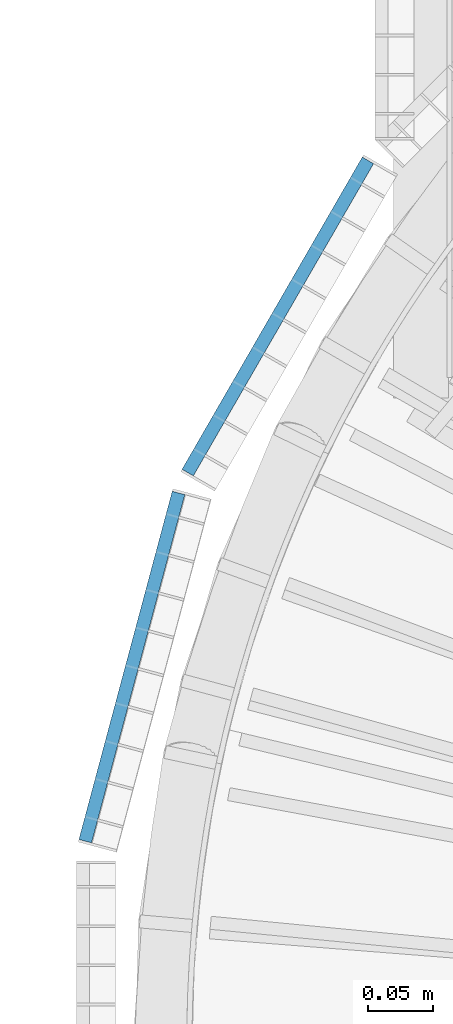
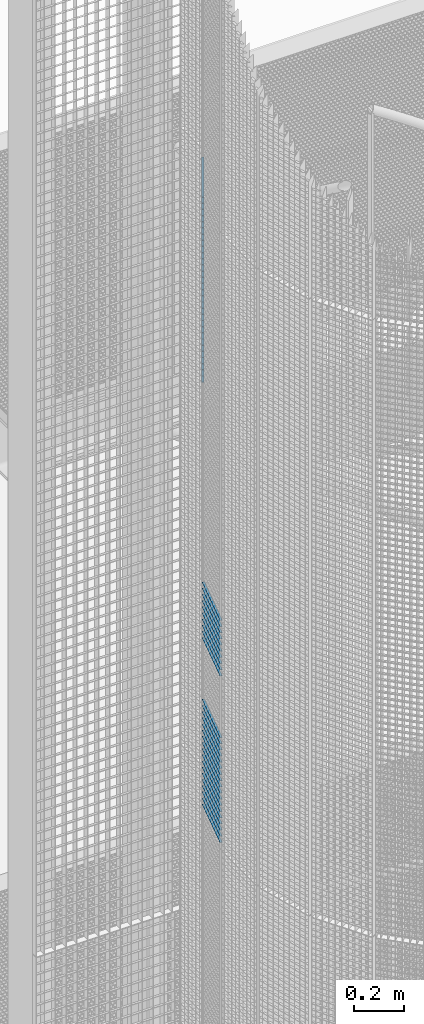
# One storey, part 191 of 1183: 59 beams, 2 elements without a shape of their own.
"""IFC2X3 building model written with IfcOpenShell, lengths in millimetres."""

from ifc_helpers import new_model, si_unit, frame, origin_with_axes, origin_2d_with_axis, place, context, subcontext, project, spatial, rectangle, extrude, material, type_object, element, aggregate, save


model = new_model("IFC2X3")

# Units and contexts
model_context = context("Model", 3, precision=1e-05, world=origin_with_axes())
body_context = subcontext(model_context, "Body", "Model", "MODEL_VIEW")
ifc_project = project(units=[si_unit("LENGTHUNIT", "METRE", prefix="MILLI"), si_unit("AREAUNIT", "SQUARE_METRE"), si_unit("VOLUMEUNIT", "CUBIC_METRE"), si_unit("MASSUNIT", "GRAM", prefix="KILO"), si_unit("TIMEUNIT", "SECOND"), si_unit("PLANEANGLEUNIT", "RADIAN"), si_unit("SOLIDANGLEUNIT", "STERADIAN"), si_unit("THERMODYNAMICTEMPERATUREUNIT", "DEGREE_CELSIUS"), si_unit("LUMINOUSINTENSITYUNIT", "LUMEN")], contexts=[model_context])

# Site, building, storey
site_placement = place(None, origin_with_axes())
site = spatial("IfcSite", under=ifc_project, at=site_placement, Name="Undefined", CompositionType="ELEMENT")
building_placement = place(site_placement, origin_with_axes())
building = spatial("IfcBuilding", under=site, at=building_placement, Name="Undefined", CompositionType="ELEMENT")
storey_placement = place(building_placement, origin_with_axes())
storey = spatial("IfcBuildingStorey", under=building, at=storey_placement, Name="Undefined", CompositionType="ELEMENT", Elevation=0.0)

# Assembly, beams
assembly_1_placement = place(storey_placement, origin_with_axes())
assembly_1 = element("IfcElementAssembly", 1, at=assembly_1_placement, inside=storey, Name="BORDURE", AssemblyPlace="NOTDEFINED", PredefinedType="NOTDEFINED")
ifc_material = material(Name="STEEL/S235JR")
beam_type = type_object("IfcBeamType", Name="PL2*10", PredefinedType="NOTDEFINED")
beam_1_placement = place(assembly_1_placement, frame((-1040.30888419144, 421.618038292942, 12540.0), z_axis=(-0.965925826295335, 0.258819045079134, 0.0), x_axis=(-0.258819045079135, -0.965925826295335, 0.0)))
beam_1 = element("IfcBeam", 2, at=beam_1_placement, type_object=beam_type, material=ifc_material, Name="ENTRETOISE", context=body_context, shape_type="SweptSolid", body=[
    extrude(rectangle(XDim=2.0, YDim=10.0, at=origin_2d_with_axis()), frame((275.999999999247, 9.09494701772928e-13, 1.53210777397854e-14), z_axis=(-1.0, 0.0, 0.0), x_axis=(0.0, -1.0, 0.0)), (0.0, 0.0, 1.0), 276.0),
])
beam_2_placement = place(assembly_1_placement, frame((-1040.30888419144, 421.618038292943, 12840.0), z_axis=(-0.965925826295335, 0.258819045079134, 0.0), x_axis=(-0.258819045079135, -0.965925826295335, 0.0)))
beam_2 = element("IfcBeam", 3, at=beam_2_placement, type_object=beam_type, material=ifc_material, Name="ENTRETOISE", context=body_context, shape_type="SweptSolid", body=[
    extrude(rectangle(XDim=2.0, YDim=10.0, at=origin_2d_with_axis()), frame((275.999999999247, 9.09494701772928e-13, 1.53210777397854e-14), z_axis=(-1.0, 0.0, 0.0), x_axis=(0.0, -1.0, 0.0)), (0.0, 0.0, 1.0), 276.0),
])
beam_3_placement = place(assembly_1_placement, frame((-1040.30888419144, 421.618038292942, 12510.0), z_axis=(-0.965925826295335, 0.258819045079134, 0.0), x_axis=(-0.258819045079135, -0.965925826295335, 0.0)))
beam_3 = element("IfcBeam", 4, at=beam_3_placement, type_object=beam_type, material=ifc_material, Name="ENTRETOISE", context=body_context, shape_type="SweptSolid", body=[
    extrude(rectangle(XDim=2.0, YDim=10.0, at=origin_2d_with_axis()), frame((275.999999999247, 9.09494701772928e-13, 1.53210777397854e-14), z_axis=(-1.0, 0.0, 0.0), x_axis=(0.0, -1.0, 0.0)), (0.0, 0.0, 1.0), 276.0),
])
beam_4_placement = place(assembly_1_placement, frame((-1040.30888419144, 421.618038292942, 12480.0), z_axis=(-0.965925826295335, 0.258819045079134, 0.0), x_axis=(-0.258819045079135, -0.965925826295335, 0.0)))
beam_4 = element("IfcBeam", 5, at=beam_4_placement, type_object=beam_type, material=ifc_material, Name="ENTRETOISE", context=body_context, shape_type="SweptSolid", body=[
    extrude(rectangle(XDim=2.0, YDim=10.0, at=origin_2d_with_axis()), frame((275.999999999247, 9.09494701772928e-13, 1.53210777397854e-14), z_axis=(-1.0, 0.0, 0.0), x_axis=(0.0, -1.0, 0.0)), (0.0, 0.0, 1.0), 276.0),
])
beam_5_placement = place(assembly_1_placement, frame((-1040.30888419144, 421.618038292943, 12870.0), z_axis=(-0.965925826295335, 0.258819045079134, 0.0), x_axis=(-0.258819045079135, -0.965925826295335, 0.0)))
beam_5 = element("IfcBeam", 6, at=beam_5_placement, type_object=beam_type, material=ifc_material, Name="ENTRETOISE", context=body_context, shape_type="SweptSolid", body=[
    extrude(rectangle(XDim=2.0, YDim=10.0, at=origin_2d_with_axis()), frame((275.999999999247, 9.09494701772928e-13, 1.53210777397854e-14), z_axis=(-1.0, 0.0, 0.0), x_axis=(0.0, -1.0, 0.0)), (0.0, 0.0, 1.0), 276.0),
])
beam_6_placement = place(assembly_1_placement, frame((-1040.30888419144, 421.618038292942, 12450.0), z_axis=(-0.965925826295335, 0.258819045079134, 0.0), x_axis=(-0.258819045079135, -0.965925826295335, 0.0)))
beam_6 = element("IfcBeam", 7, at=beam_6_placement, type_object=beam_type, material=ifc_material, Name="ENTRETOISE", context=body_context, shape_type="SweptSolid", body=[
    extrude(rectangle(XDim=2.0, YDim=10.0, at=origin_2d_with_axis()), frame((275.999999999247, 9.09494701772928e-13, 1.53210777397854e-14), z_axis=(-1.0, 0.0, 0.0), x_axis=(0.0, -1.0, 0.0)), (0.0, 0.0, 1.0), 276.0),
])
beam_7_placement = place(assembly_1_placement, frame((-1040.30888419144, 421.618038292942, 12420.0), z_axis=(-0.965925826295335, 0.258819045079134, 0.0), x_axis=(-0.258819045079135, -0.965925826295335, 0.0)))
beam_7 = element("IfcBeam", 8, at=beam_7_placement, type_object=beam_type, material=ifc_material, Name="ENTRETOISE", context=body_context, shape_type="SweptSolid", body=[
    extrude(rectangle(XDim=2.0, YDim=10.0, at=origin_2d_with_axis()), frame((275.999999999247, 9.09494701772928e-13, 1.53210777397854e-14), z_axis=(-1.0, 0.0, 0.0), x_axis=(0.0, -1.0, 0.0)), (0.0, 0.0, 1.0), 276.0),
])
beam_8_placement = place(assembly_1_placement, frame((-1040.30888419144, 421.618038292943, 12900.0), z_axis=(-0.965925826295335, 0.258819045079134, 0.0), x_axis=(-0.258819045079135, -0.965925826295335, 0.0)))
beam_8 = element("IfcBeam", 9, at=beam_8_placement, type_object=beam_type, material=ifc_material, Name="ENTRETOISE", context=body_context, shape_type="SweptSolid", body=[
    extrude(rectangle(XDim=2.0, YDim=10.0, at=origin_2d_with_axis()), frame((275.999999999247, 9.09494701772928e-13, 1.53210777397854e-14), z_axis=(-1.0, 0.0, 0.0), x_axis=(0.0, -1.0, 0.0)), (0.0, 0.0, 1.0), 276.0),
])
beam_9_placement = place(assembly_1_placement, frame((-1040.30888419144, 421.618038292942, 12390.0), z_axis=(-0.965925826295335, 0.258819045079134, 0.0), x_axis=(-0.258819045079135, -0.965925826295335, 0.0)))
beam_9 = element("IfcBeam", 10, at=beam_9_placement, type_object=beam_type, material=ifc_material, Name="ENTRETOISE", context=body_context, shape_type="SweptSolid", body=[
    extrude(rectangle(XDim=2.0, YDim=10.0, at=origin_2d_with_axis()), frame((275.999999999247, 9.09494701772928e-13, 1.53210777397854e-14), z_axis=(-1.0, 0.0, 0.0), x_axis=(0.0, -1.0, 0.0)), (0.0, 0.0, 1.0), 276.0),
])
beam_10_placement = place(assembly_1_placement, frame((-1040.30888419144, 421.618038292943, 12930.0), z_axis=(-0.965925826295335, 0.258819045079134, 0.0), x_axis=(-0.258819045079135, -0.965925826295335, 0.0)))
beam_10 = element("IfcBeam", 11, at=beam_10_placement, type_object=beam_type, material=ifc_material, Name="ENTRETOISE", context=body_context, shape_type="SweptSolid", body=[
    extrude(rectangle(XDim=2.0, YDim=10.0, at=origin_2d_with_axis()), frame((275.999999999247, 9.09494701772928e-13, 1.53210777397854e-14), z_axis=(-1.0, 0.0, 0.0), x_axis=(0.0, -1.0, 0.0)), (0.0, 0.0, 1.0), 276.0),
])
beam_11_placement = place(assembly_1_placement, frame((-1040.30888419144, 421.618038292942, 12360.0), z_axis=(-0.965925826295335, 0.258819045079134, 0.0), x_axis=(-0.258819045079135, -0.965925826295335, 0.0)))
beam_11 = element("IfcBeam", 12, at=beam_11_placement, type_object=beam_type, material=ifc_material, Name="ENTRETOISE", context=body_context, shape_type="SweptSolid", body=[
    extrude(rectangle(XDim=2.0, YDim=10.0, at=origin_2d_with_axis()), frame((275.999999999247, 9.09494701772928e-13, 1.53210777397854e-14), z_axis=(-1.0, 0.0, 0.0), x_axis=(0.0, -1.0, 0.0)), (0.0, 0.0, 1.0), 276.0),
])
beam_12_placement = place(assembly_1_placement, frame((-1040.30888419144, 421.618038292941, 12330.0), z_axis=(-0.965925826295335, 0.258819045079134, 0.0), x_axis=(-0.258819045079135, -0.965925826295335, 0.0)))
beam_12 = element("IfcBeam", 13, at=beam_12_placement, type_object=beam_type, material=ifc_material, Name="ENTRETOISE", context=body_context, shape_type="SweptSolid", body=[
    extrude(rectangle(XDim=2.0, YDim=10.0, at=origin_2d_with_axis()), frame((275.999999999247, 9.09494701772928e-13, 1.53210777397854e-14), z_axis=(-1.0, 0.0, 0.0), x_axis=(0.0, -1.0, 0.0)), (0.0, 0.0, 1.0), 276.0),
])
beam_13_placement = place(assembly_1_placement, frame((-1040.30888419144, 421.618038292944, 12960.0), z_axis=(-0.965925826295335, 0.258819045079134, 0.0), x_axis=(-0.258819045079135, -0.965925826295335, 0.0)))
beam_13 = element("IfcBeam", 14, at=beam_13_placement, type_object=beam_type, material=ifc_material, Name="ENTRETOISE", context=body_context, shape_type="SweptSolid", body=[
    extrude(rectangle(XDim=2.0, YDim=10.0, at=origin_2d_with_axis()), frame((275.999999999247, 9.09494701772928e-13, 1.53210777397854e-14), z_axis=(-1.0, 0.0, 0.0), x_axis=(0.0, -1.0, 0.0)), (0.0, 0.0, 1.0), 276.0),
])
beam_14_placement = place(assembly_1_placement, frame((-1040.30888419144, 421.618038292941, 12300.0), z_axis=(-0.965925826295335, 0.258819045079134, 0.0), x_axis=(-0.258819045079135, -0.965925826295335, 0.0)))
beam_14 = element("IfcBeam", 15, at=beam_14_placement, type_object=beam_type, material=ifc_material, Name="ENTRETOISE", context=body_context, shape_type="SweptSolid", body=[
    extrude(rectangle(XDim=2.0, YDim=10.0, at=origin_2d_with_axis()), frame((275.999999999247, 9.09494701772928e-13, 1.53210777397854e-14), z_axis=(-1.0, 0.0, 0.0), x_axis=(0.0, -1.0, 0.0)), (0.0, 0.0, 1.0), 276.0),
])
beam_15_placement = place(assembly_1_placement, frame((-1040.30888419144, 421.618038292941, 12270.0), z_axis=(-0.965925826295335, 0.258819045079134, 0.0), x_axis=(-0.258819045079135, -0.965925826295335, 0.0)))
beam_15 = element("IfcBeam", 16, at=beam_15_placement, type_object=beam_type, material=ifc_material, Name="ENTRETOISE", context=body_context, shape_type="SweptSolid", body=[
    extrude(rectangle(XDim=2.0, YDim=10.0, at=origin_2d_with_axis()), frame((275.999999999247, 9.09494701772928e-13, 1.53210777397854e-14), z_axis=(-1.0, 0.0, 0.0), x_axis=(0.0, -1.0, 0.0)), (0.0, 0.0, 1.0), 276.0),
])
beam_16_placement = place(assembly_1_placement, frame((-1040.30888419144, 421.618038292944, 12990.0), z_axis=(-0.965925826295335, 0.258819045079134, 0.0), x_axis=(-0.258819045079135, -0.965925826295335, 0.0)))
beam_16 = element("IfcBeam", 17, at=beam_16_placement, type_object=beam_type, material=ifc_material, Name="ENTRETOISE", context=body_context, shape_type="SweptSolid", body=[
    extrude(rectangle(XDim=2.0, YDim=10.0, at=origin_2d_with_axis()), frame((275.999999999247, 9.09494701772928e-13, 1.53210777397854e-14), z_axis=(-1.0, 0.0, 0.0), x_axis=(0.0, -1.0, 0.0)), (0.0, 0.0, 1.0), 276.0),
])
beam_17_placement = place(assembly_1_placement, frame((-1040.30888419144, 421.618038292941, 12240.0), z_axis=(-0.965925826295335, 0.258819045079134, 0.0), x_axis=(-0.258819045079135, -0.965925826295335, 0.0)))
beam_17 = element("IfcBeam", 18, at=beam_17_placement, type_object=beam_type, material=ifc_material, Name="ENTRETOISE", context=body_context, shape_type="SweptSolid", body=[
    extrude(rectangle(XDim=2.0, YDim=10.0, at=origin_2d_with_axis()), frame((275.999999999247, 9.09494701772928e-13, 1.53210777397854e-14), z_axis=(-1.0, 0.0, 0.0), x_axis=(0.0, -1.0, 0.0)), (0.0, 0.0, 1.0), 276.0),
])
beam_18_placement = place(assembly_1_placement, frame((-1040.30888419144, 421.618038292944, 13020.0), z_axis=(-0.965925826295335, 0.258819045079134, 0.0), x_axis=(-0.258819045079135, -0.965925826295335, 0.0)))
beam_18 = element("IfcBeam", 19, at=beam_18_placement, type_object=beam_type, material=ifc_material, Name="ENTRETOISE", context=body_context, shape_type="SweptSolid", body=[
    extrude(rectangle(XDim=2.0, YDim=10.0, at=origin_2d_with_axis()), frame((275.999999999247, 9.09494701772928e-13, 1.53210777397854e-14), z_axis=(-1.0, 0.0, 0.0), x_axis=(0.0, -1.0, 0.0)), (0.0, 0.0, 1.0), 276.0),
])
beam_19_placement = place(assembly_1_placement, frame((-1040.30888419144, 421.618038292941, 12210.0), z_axis=(-0.965925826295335, 0.258819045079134, 0.0), x_axis=(-0.258819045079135, -0.965925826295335, 0.0)))
beam_19 = element("IfcBeam", 20, at=beam_19_placement, type_object=beam_type, material=ifc_material, Name="ENTRETOISE", context=body_context, shape_type="SweptSolid", body=[
    extrude(rectangle(XDim=2.0, YDim=10.0, at=origin_2d_with_axis()), frame((275.999999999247, 9.09494701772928e-13, 1.53210777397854e-14), z_axis=(-1.0, 0.0, 0.0), x_axis=(0.0, -1.0, 0.0)), (0.0, 0.0, 1.0), 276.0),
])
beam_20_placement = place(assembly_1_placement, frame((-1040.30888419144, 421.618038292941, 12180.0), z_axis=(-0.965925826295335, 0.258819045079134, 0.0), x_axis=(-0.258819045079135, -0.965925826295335, 0.0)))
beam_20 = element("IfcBeam", 21, at=beam_20_placement, type_object=beam_type, material=ifc_material, Name="ENTRETOISE", context=body_context, shape_type="SweptSolid", body=[
    extrude(rectangle(XDim=2.0, YDim=10.0, at=origin_2d_with_axis()), frame((275.999999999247, 9.09494701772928e-13, 1.53210777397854e-14), z_axis=(-1.0, 0.0, 0.0), x_axis=(0.0, -1.0, 0.0)), (0.0, 0.0, 1.0), 276.0),
])
beam_21_placement = place(assembly_1_placement, frame((-1040.30888419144, 421.618038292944, 13050.0), z_axis=(-0.965925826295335, 0.258819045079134, 0.0), x_axis=(-0.258819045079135, -0.965925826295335, 0.0)))
beam_21 = element("IfcBeam", 22, at=beam_21_placement, type_object=beam_type, material=ifc_material, Name="ENTRETOISE", context=body_context, shape_type="SweptSolid", body=[
    extrude(rectangle(XDim=2.0, YDim=10.0, at=origin_2d_with_axis()), frame((275.999999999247, 9.09494701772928e-13, 1.53210777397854e-14), z_axis=(-1.0, 0.0, 0.0), x_axis=(0.0, -1.0, 0.0)), (0.0, 0.0, 1.0), 276.0),
])
beam_22_placement = place(assembly_1_placement, frame((-1040.30888419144, 421.618038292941, 12150.0), z_axis=(-0.965925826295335, 0.258819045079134, 0.0), x_axis=(-0.258819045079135, -0.965925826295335, 0.0)))
beam_22 = element("IfcBeam", 23, at=beam_22_placement, type_object=beam_type, material=ifc_material, Name="ENTRETOISE", context=body_context, shape_type="SweptSolid", body=[
    extrude(rectangle(XDim=2.0, YDim=10.0, at=origin_2d_with_axis()), frame((275.999999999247, 9.09494701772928e-13, 1.53210777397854e-14), z_axis=(-1.0, 0.0, 0.0), x_axis=(0.0, -1.0, 0.0)), (0.0, 0.0, 1.0), 276.0),
])
beam_23_placement = place(assembly_1_placement, frame((-1040.30888419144, 421.618038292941, 12120.0), z_axis=(-0.965925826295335, 0.258819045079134, 0.0), x_axis=(-0.258819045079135, -0.965925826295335, 0.0)))
beam_23 = element("IfcBeam", 24, at=beam_23_placement, type_object=beam_type, material=ifc_material, Name="ENTRETOISE", context=body_context, shape_type="SweptSolid", body=[
    extrude(rectangle(XDim=2.0, YDim=10.0, at=origin_2d_with_axis()), frame((275.999999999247, 9.09494701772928e-13, 1.53210777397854e-14), z_axis=(-1.0, 0.0, 0.0), x_axis=(0.0, -1.0, 0.0)), (0.0, 0.0, 1.0), 276.0),
])
beam_24_placement = place(assembly_1_placement, frame((-1040.30888419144, 421.618038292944, 13080.0), z_axis=(-0.965925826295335, 0.258819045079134, 0.0), x_axis=(-0.258819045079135, -0.965925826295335, 0.0)))
beam_24 = element("IfcBeam", 25, at=beam_24_placement, type_object=beam_type, material=ifc_material, Name="ENTRETOISE", context=body_context, shape_type="SweptSolid", body=[
    extrude(rectangle(XDim=2.0, YDim=10.0, at=origin_2d_with_axis()), frame((275.999999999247, 9.09494701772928e-13, 1.53210777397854e-14), z_axis=(-1.0, 0.0, 0.0), x_axis=(0.0, -1.0, 0.0)), (0.0, 0.0, 1.0), 276.0),
])
beam_25_placement = place(assembly_1_placement, frame((-1040.30888419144, 421.618038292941, 12090.0), z_axis=(-0.965925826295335, 0.258819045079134, 0.0), x_axis=(-0.258819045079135, -0.965925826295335, 0.0)))
beam_25 = element("IfcBeam", 26, at=beam_25_placement, type_object=beam_type, material=ifc_material, Name="ENTRETOISE", context=body_context, shape_type="SweptSolid", body=[
    extrude(rectangle(XDim=2.0, YDim=10.0, at=origin_2d_with_axis()), frame((275.999999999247, 9.09494701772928e-13, 1.53210777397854e-14), z_axis=(-1.0, 0.0, 0.0), x_axis=(0.0, -1.0, 0.0)), (0.0, 0.0, 1.0), 276.0),
])
beam_26_placement = place(assembly_1_placement, frame((-1040.30888419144, 421.618038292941, 12060.0), z_axis=(-0.965925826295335, 0.258819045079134, 0.0), x_axis=(-0.258819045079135, -0.965925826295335, 0.0)))
beam_26 = element("IfcBeam", 27, at=beam_26_placement, type_object=beam_type, material=ifc_material, Name="ENTRETOISE", context=body_context, shape_type="SweptSolid", body=[
    extrude(rectangle(XDim=2.0, YDim=10.0, at=origin_2d_with_axis()), frame((275.999999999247, 9.09494701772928e-13, 1.53210777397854e-14), z_axis=(-1.0, 0.0, 0.0), x_axis=(0.0, -1.0, 0.0)), (0.0, 0.0, 1.0), 276.0),
])
beam_27_placement = place(assembly_1_placement, frame((-1040.30888419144, 421.618038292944, 13110.0), z_axis=(-0.965925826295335, 0.258819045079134, 0.0), x_axis=(-0.258819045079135, -0.965925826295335, 0.0)))
beam_27 = element("IfcBeam", 28, at=beam_27_placement, type_object=beam_type, material=ifc_material, Name="ENTRETOISE", context=body_context, shape_type="SweptSolid", body=[
    extrude(rectangle(XDim=2.0, YDim=10.0, at=origin_2d_with_axis()), frame((275.999999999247, 9.09494701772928e-13, 1.53210777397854e-14), z_axis=(-1.0, 0.0, 0.0), x_axis=(0.0, -1.0, 0.0)), (0.0, 0.0, 1.0), 276.0),
])
beam_28_placement = place(assembly_1_placement, frame((-1040.30888419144, 421.618038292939, 12030.0), z_axis=(-0.965925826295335, 0.258819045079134, 0.0), x_axis=(-0.258819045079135, -0.965925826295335, 0.0)))
beam_28 = element("IfcBeam", 29, at=beam_28_placement, type_object=beam_type, material=ifc_material, Name="ENTRETOISE", context=body_context, shape_type="SweptSolid", body=[
    extrude(rectangle(XDim=2.0, YDim=10.0, at=origin_2d_with_axis()), frame((275.999999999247, 9.09494701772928e-13, 1.53210777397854e-14), z_axis=(-1.0, 0.0, 0.0), x_axis=(0.0, -1.0, 0.0)), (0.0, 0.0, 1.0), 276.0),
])
aggregate(assembly_1, [beam_1, beam_2, beam_3, beam_4, beam_5, beam_6, beam_7, beam_8, beam_9, beam_10, beam_11, beam_12, beam_13, beam_14, beam_15, beam_16, beam_17, beam_18, beam_19, beam_20, beam_21, beam_22, beam_23, beam_24, beam_25, beam_26, beam_27, beam_28])

assembly_2_placement = place(storey_placement, origin_with_axes())
assembly_2 = element("IfcElementAssembly", 30, at=assembly_2_placement, inside=storey, Name="BORDURE", AssemblyPlace="NOTDEFINED", PredefinedType="NOTDEFINED")
beam_29_placement = place(assembly_2_placement, frame((-895.303964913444, 676.248044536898, 14970.0), z_axis=(-0.866025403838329, 0.499999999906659, 0.0), x_axis=(-0.49999999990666, -0.866025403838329, 0.0)))
beam_29 = element("IfcBeam", 31, at=beam_29_placement, type_object=beam_type, material=ifc_material, Name="ENTRETOISE", context=body_context, shape_type="SweptSolid", body=[
    extrude(rectangle(XDim=2.0, YDim=10.0, at=origin_2d_with_axis()), frame((275.999999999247, 9.09494701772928e-13, 1.53210777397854e-14), z_axis=(-1.0, 0.0, 0.0), x_axis=(0.0, -1.0, 0.0)), (0.0, 0.0, 1.0), 276.0),
])
beam_30_placement = place(assembly_2_placement, frame((-895.303964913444, 676.248044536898, 14940.0), z_axis=(-0.866025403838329, 0.499999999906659, 0.0), x_axis=(-0.49999999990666, -0.866025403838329, 0.0)))
beam_30 = element("IfcBeam", 32, at=beam_30_placement, type_object=beam_type, material=ifc_material, Name="ENTRETOISE", context=body_context, shape_type="SweptSolid", body=[
    extrude(rectangle(XDim=2.0, YDim=10.0, at=origin_2d_with_axis()), frame((275.999999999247, 9.09494701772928e-13, 1.53210777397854e-14), z_axis=(-1.0, 0.0, 0.0), x_axis=(0.0, -1.0, 0.0)), (0.0, 0.0, 1.0), 276.0),
])
beam_31_placement = place(assembly_2_placement, frame((-895.303964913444, 676.248044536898, 14910.0), z_axis=(-0.866025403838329, 0.499999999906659, 0.0), x_axis=(-0.49999999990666, -0.866025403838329, 0.0)))
beam_31 = element("IfcBeam", 33, at=beam_31_placement, type_object=beam_type, material=ifc_material, Name="ENTRETOISE", context=body_context, shape_type="SweptSolid", body=[
    extrude(rectangle(XDim=2.0, YDim=10.0, at=origin_2d_with_axis()), frame((275.999999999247, 9.09494701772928e-13, 1.53210777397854e-14), z_axis=(-1.0, 0.0, 0.0), x_axis=(0.0, -1.0, 0.0)), (0.0, 0.0, 1.0), 276.0),
])
beam_32_placement = place(assembly_2_placement, frame((-895.303964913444, 676.248044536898, 14880.0), z_axis=(-0.866025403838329, 0.499999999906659, 0.0), x_axis=(-0.49999999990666, -0.866025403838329, 0.0)))
beam_32 = element("IfcBeam", 34, at=beam_32_placement, type_object=beam_type, material=ifc_material, Name="ENTRETOISE", context=body_context, shape_type="SweptSolid", body=[
    extrude(rectangle(XDim=2.0, YDim=10.0, at=origin_2d_with_axis()), frame((275.999999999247, 9.09494701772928e-13, 1.53210777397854e-14), z_axis=(-1.0, 0.0, 0.0), x_axis=(0.0, -1.0, 0.0)), (0.0, 0.0, 1.0), 276.0),
])
beam_33_placement = place(assembly_2_placement, frame((-895.303964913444, 676.248044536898, 14850.0), z_axis=(-0.866025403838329, 0.499999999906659, 0.0), x_axis=(-0.49999999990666, -0.866025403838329, 0.0)))
beam_33 = element("IfcBeam", 35, at=beam_33_placement, type_object=beam_type, material=ifc_material, Name="ENTRETOISE", context=body_context, shape_type="SweptSolid", body=[
    extrude(rectangle(XDim=2.0, YDim=10.0, at=origin_2d_with_axis()), frame((275.999999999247, 9.09494701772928e-13, 1.53210777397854e-14), z_axis=(-1.0, 0.0, 0.0), x_axis=(0.0, -1.0, 0.0)), (0.0, 0.0, 1.0), 276.0),
])
beam_34_placement = place(assembly_2_placement, frame((-895.303964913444, 676.248044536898, 14820.0), z_axis=(-0.866025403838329, 0.499999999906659, 0.0), x_axis=(-0.49999999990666, -0.866025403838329, 0.0)))
beam_34 = element("IfcBeam", 36, at=beam_34_placement, type_object=beam_type, material=ifc_material, Name="ENTRETOISE", context=body_context, shape_type="SweptSolid", body=[
    extrude(rectangle(XDim=2.0, YDim=10.0, at=origin_2d_with_axis()), frame((275.999999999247, 9.09494701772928e-13, 1.53210777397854e-14), z_axis=(-1.0, 0.0, 0.0), x_axis=(0.0, -1.0, 0.0)), (0.0, 0.0, 1.0), 276.0),
])
beam_35_placement = place(assembly_2_placement, frame((-895.303964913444, 676.248044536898, 14790.0), z_axis=(-0.866025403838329, 0.499999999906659, 0.0), x_axis=(-0.49999999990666, -0.866025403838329, 0.0)))
beam_35 = element("IfcBeam", 37, at=beam_35_placement, type_object=beam_type, material=ifc_material, Name="ENTRETOISE", context=body_context, shape_type="SweptSolid", body=[
    extrude(rectangle(XDim=2.0, YDim=10.0, at=origin_2d_with_axis()), frame((275.999999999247, 9.09494701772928e-13, 1.53210777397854e-14), z_axis=(-1.0, 0.0, 0.0), x_axis=(0.0, -1.0, 0.0)), (0.0, 0.0, 1.0), 276.0),
])
beam_36_placement = place(assembly_2_placement, frame((-895.303964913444, 676.248044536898, 14760.0), z_axis=(-0.866025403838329, 0.499999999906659, 0.0), x_axis=(-0.49999999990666, -0.866025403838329, 0.0)))
beam_36 = element("IfcBeam", 38, at=beam_36_placement, type_object=beam_type, material=ifc_material, Name="ENTRETOISE", context=body_context, shape_type="SweptSolid", body=[
    extrude(rectangle(XDim=2.0, YDim=10.0, at=origin_2d_with_axis()), frame((275.999999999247, 9.09494701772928e-13, 1.53210777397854e-14), z_axis=(-1.0, 0.0, 0.0), x_axis=(0.0, -1.0, 0.0)), (0.0, 0.0, 1.0), 276.0),
])
beam_37_placement = place(assembly_2_placement, frame((-895.303964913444, 676.248044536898, 14730.0), z_axis=(-0.866025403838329, 0.499999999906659, 0.0), x_axis=(-0.49999999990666, -0.866025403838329, 0.0)))
beam_37 = element("IfcBeam", 39, at=beam_37_placement, type_object=beam_type, material=ifc_material, Name="ENTRETOISE", context=body_context, shape_type="SweptSolid", body=[
    extrude(rectangle(XDim=2.0, YDim=10.0, at=origin_2d_with_axis()), frame((275.999999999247, 9.09494701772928e-13, 1.53210777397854e-14), z_axis=(-1.0, 0.0, 0.0), x_axis=(0.0, -1.0, 0.0)), (0.0, 0.0, 1.0), 276.0),
])
beam_38_placement = place(assembly_2_placement, frame((-895.303964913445, 676.248044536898, 14700.0), z_axis=(-0.866025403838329, 0.499999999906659, 0.0), x_axis=(-0.49999999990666, -0.866025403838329, 0.0)))
beam_38 = element("IfcBeam", 40, at=beam_38_placement, type_object=beam_type, material=ifc_material, Name="ENTRETOISE", context=body_context, shape_type="SweptSolid", body=[
    extrude(rectangle(XDim=2.0, YDim=10.0, at=origin_2d_with_axis()), frame((275.999999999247, 9.09494701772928e-13, 1.53210777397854e-14), z_axis=(-1.0, 0.0, 0.0), x_axis=(0.0, -1.0, 0.0)), (0.0, 0.0, 1.0), 276.0),
])
beam_39_placement = place(assembly_2_placement, frame((-895.303964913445, 676.248044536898, 14670.0), z_axis=(-0.866025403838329, 0.499999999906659, 0.0), x_axis=(-0.49999999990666, -0.866025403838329, 0.0)))
beam_39 = element("IfcBeam", 41, at=beam_39_placement, type_object=beam_type, material=ifc_material, Name="ENTRETOISE", context=body_context, shape_type="SweptSolid", body=[
    extrude(rectangle(XDim=2.0, YDim=10.0, at=origin_2d_with_axis()), frame((275.999999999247, 9.09494701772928e-13, 1.53210777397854e-14), z_axis=(-1.0, 0.0, 0.0), x_axis=(0.0, -1.0, 0.0)), (0.0, 0.0, 1.0), 276.0),
])
beam_40_placement = place(assembly_2_placement, frame((-895.303964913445, 676.248044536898, 14640.0), z_axis=(-0.866025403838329, 0.499999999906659, 0.0), x_axis=(-0.49999999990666, -0.866025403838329, 0.0)))
beam_40 = element("IfcBeam", 42, at=beam_40_placement, type_object=beam_type, material=ifc_material, Name="ENTRETOISE", context=body_context, shape_type="SweptSolid", body=[
    extrude(rectangle(XDim=2.0, YDim=10.0, at=origin_2d_with_axis()), frame((275.999999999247, 9.09494701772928e-13, 1.53210777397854e-14), z_axis=(-1.0, 0.0, 0.0), x_axis=(0.0, -1.0, 0.0)), (0.0, 0.0, 1.0), 276.0),
])
beam_41_placement = place(assembly_2_placement, frame((-895.303964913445, 676.248044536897, 14610.0), z_axis=(-0.866025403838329, 0.499999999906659, 0.0), x_axis=(-0.49999999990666, -0.866025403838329, 0.0)))
beam_41 = element("IfcBeam", 43, at=beam_41_placement, type_object=beam_type, material=ifc_material, Name="ENTRETOISE", context=body_context, shape_type="SweptSolid", body=[
    extrude(rectangle(XDim=2.0, YDim=10.0, at=origin_2d_with_axis()), frame((275.999999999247, 9.09494701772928e-13, 1.53210777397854e-14), z_axis=(-1.0, 0.0, 0.0), x_axis=(0.0, -1.0, 0.0)), (0.0, 0.0, 1.0), 276.0),
])
beam_42_placement = place(assembly_2_placement, frame((-895.303964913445, 676.248044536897, 14580.0), z_axis=(-0.866025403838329, 0.499999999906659, 0.0), x_axis=(-0.49999999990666, -0.866025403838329, 0.0)))
beam_42 = element("IfcBeam", 44, at=beam_42_placement, type_object=beam_type, material=ifc_material, Name="ENTRETOISE", context=body_context, shape_type="SweptSolid", body=[
    extrude(rectangle(XDim=2.0, YDim=10.0, at=origin_2d_with_axis()), frame((275.999999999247, 9.09494701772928e-13, 1.53210777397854e-14), z_axis=(-1.0, 0.0, 0.0), x_axis=(0.0, -1.0, 0.0)), (0.0, 0.0, 1.0), 276.0),
])
beam_43_placement = place(assembly_2_placement, frame((-895.303964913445, 676.248044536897, 14550.0), z_axis=(-0.866025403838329, 0.499999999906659, 0.0), x_axis=(-0.49999999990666, -0.866025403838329, 0.0)))
beam_43 = element("IfcBeam", 45, at=beam_43_placement, type_object=beam_type, material=ifc_material, Name="ENTRETOISE", context=body_context, shape_type="SweptSolid", body=[
    extrude(rectangle(XDim=2.0, YDim=10.0, at=origin_2d_with_axis()), frame((275.999999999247, 9.09494701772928e-13, 1.53210777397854e-14), z_axis=(-1.0, 0.0, 0.0), x_axis=(0.0, -1.0, 0.0)), (0.0, 0.0, 1.0), 276.0),
])
beam_44_placement = place(assembly_2_placement, frame((-895.303964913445, 676.248044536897, 14520.0), z_axis=(-0.866025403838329, 0.499999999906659, 0.0), x_axis=(-0.49999999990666, -0.866025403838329, 0.0)))
beam_44 = element("IfcBeam", 46, at=beam_44_placement, type_object=beam_type, material=ifc_material, Name="ENTRETOISE", context=body_context, shape_type="SweptSolid", body=[
    extrude(rectangle(XDim=2.0, YDim=10.0, at=origin_2d_with_axis()), frame((275.999999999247, 9.09494701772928e-13, 1.53210777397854e-14), z_axis=(-1.0, 0.0, 0.0), x_axis=(0.0, -1.0, 0.0)), (0.0, 0.0, 1.0), 276.0),
])
beam_45_placement = place(assembly_2_placement, frame((-895.303964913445, 676.248044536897, 14490.0), z_axis=(-0.866025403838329, 0.499999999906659, 0.0), x_axis=(-0.49999999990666, -0.866025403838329, 0.0)))
beam_45 = element("IfcBeam", 47, at=beam_45_placement, type_object=beam_type, material=ifc_material, Name="ENTRETOISE", context=body_context, shape_type="SweptSolid", body=[
    extrude(rectangle(XDim=2.0, YDim=10.0, at=origin_2d_with_axis()), frame((275.999999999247, 9.09494701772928e-13, 1.53210777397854e-14), z_axis=(-1.0, 0.0, 0.0), x_axis=(0.0, -1.0, 0.0)), (0.0, 0.0, 1.0), 276.0),
])
beam_46_placement = place(assembly_2_placement, frame((-895.303964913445, 676.248044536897, 14460.0), z_axis=(-0.866025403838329, 0.499999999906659, 0.0), x_axis=(-0.49999999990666, -0.866025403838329, 0.0)))
beam_46 = element("IfcBeam", 48, at=beam_46_placement, type_object=beam_type, material=ifc_material, Name="ENTRETOISE", context=body_context, shape_type="SweptSolid", body=[
    extrude(rectangle(XDim=2.0, YDim=10.0, at=origin_2d_with_axis()), frame((275.999999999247, 9.09494701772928e-13, 1.53210777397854e-14), z_axis=(-1.0, 0.0, 0.0), x_axis=(0.0, -1.0, 0.0)), (0.0, 0.0, 1.0), 276.0),
])
beam_47_placement = place(assembly_2_placement, frame((-895.303964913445, 676.248044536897, 14430.0), z_axis=(-0.866025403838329, 0.499999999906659, 0.0), x_axis=(-0.49999999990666, -0.866025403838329, 0.0)))
beam_47 = element("IfcBeam", 49, at=beam_47_placement, type_object=beam_type, material=ifc_material, Name="ENTRETOISE", context=body_context, shape_type="SweptSolid", body=[
    extrude(rectangle(XDim=2.0, YDim=10.0, at=origin_2d_with_axis()), frame((275.999999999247, 9.09494701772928e-13, 1.53210777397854e-14), z_axis=(-1.0, 0.0, 0.0), x_axis=(0.0, -1.0, 0.0)), (0.0, 0.0, 1.0), 276.0),
])
beam_48_placement = place(assembly_2_placement, frame((-895.303964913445, 676.248044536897, 14400.0), z_axis=(-0.866025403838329, 0.499999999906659, 0.0), x_axis=(-0.49999999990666, -0.866025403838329, 0.0)))
beam_48 = element("IfcBeam", 50, at=beam_48_placement, type_object=beam_type, material=ifc_material, Name="ENTRETOISE", context=body_context, shape_type="SweptSolid", body=[
    extrude(rectangle(XDim=2.0, YDim=10.0, at=origin_2d_with_axis()), frame((275.999999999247, 9.09494701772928e-13, 1.53210777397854e-14), z_axis=(-1.0, 0.0, 0.0), x_axis=(0.0, -1.0, 0.0)), (0.0, 0.0, 1.0), 276.0),
])
beam_49_placement = place(assembly_2_placement, frame((-895.303964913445, 676.248044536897, 14370.0), z_axis=(-0.866025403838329, 0.499999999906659, 0.0), x_axis=(-0.49999999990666, -0.866025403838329, 0.0)))
beam_49 = element("IfcBeam", 51, at=beam_49_placement, type_object=beam_type, material=ifc_material, Name="ENTRETOISE", context=body_context, shape_type="SweptSolid", body=[
    extrude(rectangle(XDim=2.0, YDim=10.0, at=origin_2d_with_axis()), frame((275.999999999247, 9.09494701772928e-13, 1.53210777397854e-14), z_axis=(-1.0, 0.0, 0.0), x_axis=(0.0, -1.0, 0.0)), (0.0, 0.0, 1.0), 276.0),
])
beam_50_placement = place(assembly_2_placement, frame((-895.303964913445, 676.248044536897, 14340.0), z_axis=(-0.866025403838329, 0.499999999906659, 0.0), x_axis=(-0.49999999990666, -0.866025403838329, 0.0)))
beam_50 = element("IfcBeam", 52, at=beam_50_placement, type_object=beam_type, material=ifc_material, Name="ENTRETOISE", context=body_context, shape_type="SweptSolid", body=[
    extrude(rectangle(XDim=2.0, YDim=10.0, at=origin_2d_with_axis()), frame((275.999999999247, 9.09494701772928e-13, 1.53210777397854e-14), z_axis=(-1.0, 0.0, 0.0), x_axis=(0.0, -1.0, 0.0)), (0.0, 0.0, 1.0), 276.0),
])
beam_51_placement = place(assembly_2_placement, frame((-895.303964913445, 676.248044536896, 14310.0), z_axis=(-0.866025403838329, 0.499999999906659, 0.0), x_axis=(-0.49999999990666, -0.866025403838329, 0.0)))
beam_51 = element("IfcBeam", 53, at=beam_51_placement, type_object=beam_type, material=ifc_material, Name="ENTRETOISE", context=body_context, shape_type="SweptSolid", body=[
    extrude(rectangle(XDim=2.0, YDim=10.0, at=origin_2d_with_axis()), frame((275.999999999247, 9.09494701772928e-13, 1.53210777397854e-14), z_axis=(-1.0, 0.0, 0.0), x_axis=(0.0, -1.0, 0.0)), (0.0, 0.0, 1.0), 276.0),
])
beam_52_placement = place(assembly_2_placement, frame((-895.303964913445, 676.248044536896, 14280.0), z_axis=(-0.866025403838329, 0.499999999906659, 0.0), x_axis=(-0.49999999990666, -0.866025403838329, 0.0)))
beam_52 = element("IfcBeam", 54, at=beam_52_placement, type_object=beam_type, material=ifc_material, Name="ENTRETOISE", context=body_context, shape_type="SweptSolid", body=[
    extrude(rectangle(XDim=2.0, YDim=10.0, at=origin_2d_with_axis()), frame((275.999999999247, 9.09494701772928e-13, 1.53210777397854e-14), z_axis=(-1.0, 0.0, 0.0), x_axis=(0.0, -1.0, 0.0)), (0.0, 0.0, 1.0), 276.0),
])
beam_53_placement = place(assembly_2_placement, frame((-895.303964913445, 676.248044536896, 14250.0), z_axis=(-0.866025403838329, 0.499999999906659, 0.0), x_axis=(-0.49999999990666, -0.866025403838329, 0.0)))
beam_53 = element("IfcBeam", 55, at=beam_53_placement, type_object=beam_type, material=ifc_material, Name="ENTRETOISE", context=body_context, shape_type="SweptSolid", body=[
    extrude(rectangle(XDim=2.0, YDim=10.0, at=origin_2d_with_axis()), frame((275.999999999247, 9.09494701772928e-13, 1.53210777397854e-14), z_axis=(-1.0, 0.0, 0.0), x_axis=(0.0, -1.0, 0.0)), (0.0, 0.0, 1.0), 276.0),
])
beam_54_placement = place(assembly_2_placement, frame((-895.303964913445, 676.248044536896, 14220.0), z_axis=(-0.866025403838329, 0.499999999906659, 0.0), x_axis=(-0.49999999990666, -0.866025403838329, 0.0)))
beam_54 = element("IfcBeam", 56, at=beam_54_placement, type_object=beam_type, material=ifc_material, Name="ENTRETOISE", context=body_context, shape_type="SweptSolid", body=[
    extrude(rectangle(XDim=2.0, YDim=10.0, at=origin_2d_with_axis()), frame((275.999999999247, 9.09494701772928e-13, 1.53210777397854e-14), z_axis=(-1.0, 0.0, 0.0), x_axis=(0.0, -1.0, 0.0)), (0.0, 0.0, 1.0), 276.0),
])
beam_55_placement = place(assembly_2_placement, frame((-895.303964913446, 676.248044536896, 14190.0), z_axis=(-0.866025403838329, 0.499999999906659, 0.0), x_axis=(-0.49999999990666, -0.866025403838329, 0.0)))
beam_55 = element("IfcBeam", 57, at=beam_55_placement, type_object=beam_type, material=ifc_material, Name="ENTRETOISE", context=body_context, shape_type="SweptSolid", body=[
    extrude(rectangle(XDim=2.0, YDim=10.0, at=origin_2d_with_axis()), frame((275.999999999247, 9.09494701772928e-13, 1.53210777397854e-14), z_axis=(-1.0, 0.0, 0.0), x_axis=(0.0, -1.0, 0.0)), (0.0, 0.0, 1.0), 276.0),
])
beam_56_placement = place(assembly_2_placement, frame((-895.303964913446, 676.248044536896, 14160.0), z_axis=(-0.866025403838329, 0.499999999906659, 0.0), x_axis=(-0.49999999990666, -0.866025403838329, 0.0)))
beam_56 = element("IfcBeam", 58, at=beam_56_placement, type_object=beam_type, material=ifc_material, Name="ENTRETOISE", context=body_context, shape_type="SweptSolid", body=[
    extrude(rectangle(XDim=2.0, YDim=10.0, at=origin_2d_with_axis()), frame((275.999999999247, 9.09494701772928e-13, 1.53210777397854e-14), z_axis=(-1.0, 0.0, 0.0), x_axis=(0.0, -1.0, 0.0)), (0.0, 0.0, 1.0), 276.0),
])
beam_57_placement = place(assembly_2_placement, frame((-895.303964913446, 676.248044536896, 14130.0), z_axis=(-0.866025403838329, 0.499999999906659, 0.0), x_axis=(-0.49999999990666, -0.866025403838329, 0.0)))
beam_57 = element("IfcBeam", 59, at=beam_57_placement, type_object=beam_type, material=ifc_material, Name="ENTRETOISE", context=body_context, shape_type="SweptSolid", body=[
    extrude(rectangle(XDim=2.0, YDim=10.0, at=origin_2d_with_axis()), frame((275.999999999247, 9.09494701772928e-13, 1.53210777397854e-14), z_axis=(-1.0, 0.0, 0.0), x_axis=(0.0, -1.0, 0.0)), (0.0, 0.0, 1.0), 276.0),
])
beam_58_placement = place(assembly_2_placement, frame((-895.303964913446, 676.248044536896, 14100.0), z_axis=(-0.866025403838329, 0.499999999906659, 0.0), x_axis=(-0.49999999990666, -0.866025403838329, 0.0)))
beam_58 = element("IfcBeam", 60, at=beam_58_placement, type_object=beam_type, material=ifc_material, Name="ENTRETOISE", context=body_context, shape_type="SweptSolid", body=[
    extrude(rectangle(XDim=2.0, YDim=10.0, at=origin_2d_with_axis()), frame((275.999999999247, 9.09494701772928e-13, 1.53210777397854e-14), z_axis=(-1.0, 0.0, 0.0), x_axis=(0.0, -1.0, 0.0)), (0.0, 0.0, 1.0), 276.0),
])
beam_59_placement = place(assembly_2_placement, frame((-895.303964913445, 676.248044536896, 14070.0), z_axis=(-0.866025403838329, 0.499999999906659, 0.0), x_axis=(-0.49999999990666, -0.866025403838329, 0.0)))
beam_59 = element("IfcBeam", 61, at=beam_59_placement, type_object=beam_type, material=ifc_material, Name="ENTRETOISE", context=body_context, shape_type="SweptSolid", body=[
    extrude(rectangle(XDim=2.0, YDim=10.0, at=origin_2d_with_axis()), frame((275.999999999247, 9.09494701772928e-13, 1.53210777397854e-14), z_axis=(-1.0, 0.0, 0.0), x_axis=(0.0, -1.0, 0.0)), (0.0, 0.0, 1.0), 276.0),
])
aggregate(assembly_2, [beam_29, beam_30, beam_31, beam_32, beam_33, beam_34, beam_35, beam_36, beam_37, beam_38, beam_39, beam_40, beam_41, beam_42, beam_43, beam_44, beam_45, beam_46, beam_47, beam_48, beam_49, beam_50, beam_51, beam_52, beam_53, beam_54, beam_55, beam_56, beam_57, beam_58, beam_59])

save(model, "model.ifc")
